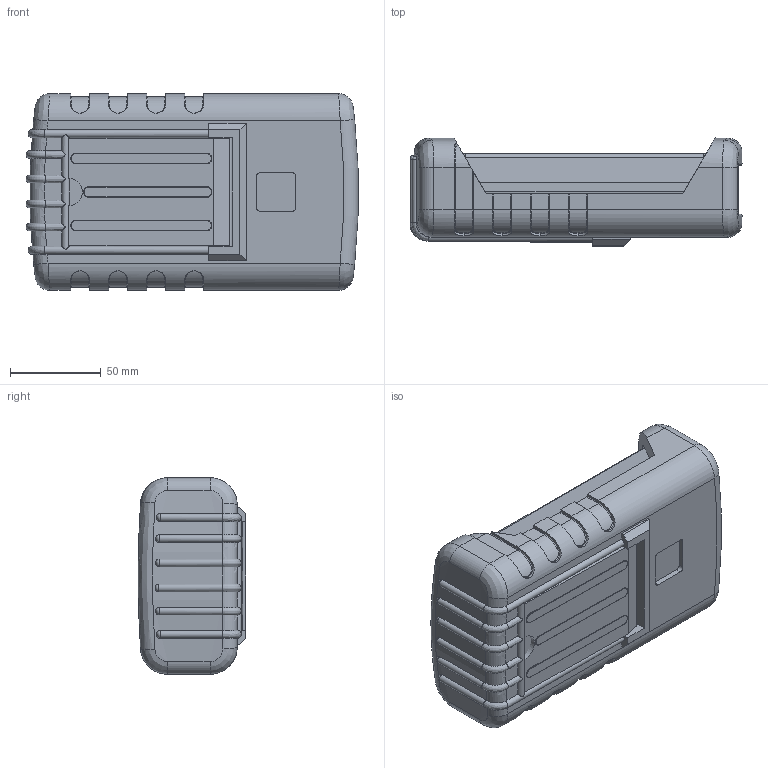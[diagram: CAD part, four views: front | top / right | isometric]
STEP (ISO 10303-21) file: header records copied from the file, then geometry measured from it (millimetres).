
FILE_DESCRIPTION (( 'STEP AP214' ), '1' );
FILE_NAME ('91-42-3A-E-R.STEP', '2020-10-17T14:25:46', ( 'Rudy' ), ( '' ), 'SwSTEP 2.0', 'SolidWorks 2014', '' );
FILE_SCHEMA (( 'AUTOMOTIVE_DESIGN' ));
Length unit declared in the file: millimetre
Products named in the file (9): 90 PCB 3AA; 3AAdoor; 91 LCD Top; 90 LCD Expander; 90-3AA Shallow; 91-42-3A-E-R; 90 RBE Boot; RE 90 stand
Assembly tree (8 placements, depth 3):
  91-42-3A-E-R
    90-3AA Shallow
    90 LCD Expander
    91 LCD Top
    3AAdoor
    90 PCB 3AA
    90 RBE Boot
      90 RBE Boot
      RE 90 stand
Bounding box: 183.26 x 59.56 x 108.46 mm (x, y, z)
Volume: 405727.4 mm3; surface area: 215497.4 mm2
Topology: 7 solids, 7 shells, 1239 faces, 3322 edges, 2122 vertices
Faces by surface type: plane 687, cylinder 328, bspline 76, cone 68, torus 65, sphere 15
Entity records: 45417 total; most frequent: CARTESIAN_POINT 14519, ORIENTED_EDGE 6600, DIRECTION 6135, EDGE_CURVE 3300, VECTOR 2117, LINE 2117, VERTEX_POINT 2114, AXIS2_PLACEMENT_3D 2009
